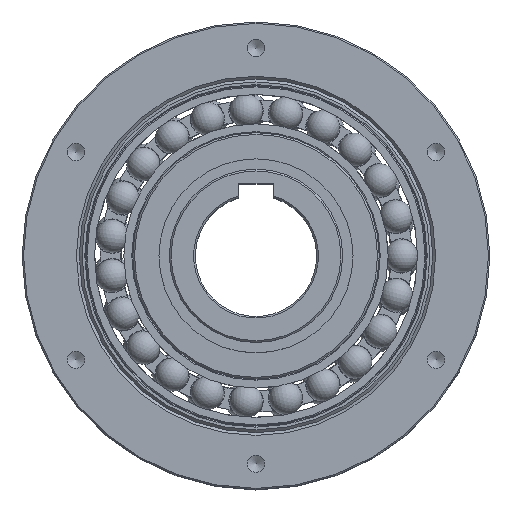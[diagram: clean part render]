
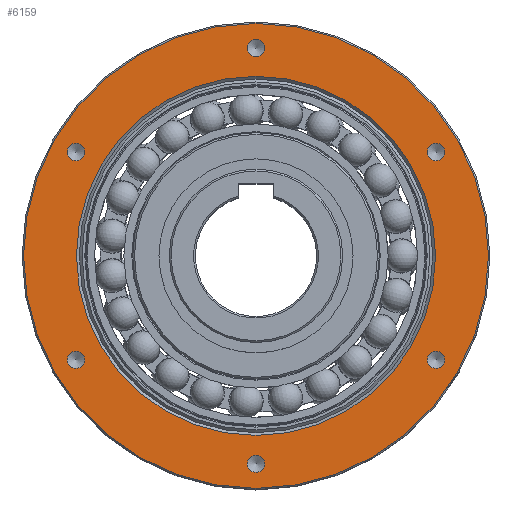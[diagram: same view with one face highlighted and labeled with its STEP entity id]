
A CAD part, top view. The second image highlights one B-rep face of the part: STEP entity #6159.
In plain terms, the highlighted planar face has unit normal (0, 0, 1).
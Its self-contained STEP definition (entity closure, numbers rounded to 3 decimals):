
#19 = FACE_BOUND ( 'NONE', #3216, .T. ) ;
#39 = CARTESIAN_POINT ( 'NONE',  ( 51.962, -30., 21.5 ) ) ;
#157 = EDGE_CURVE ( 'NONE', #6303, #6303, #559, .T. ) ;
#266 = CARTESIAN_POINT ( 'NONE',  ( 54.462, -30., 21.5 ) ) ;
#289 = AXIS2_PLACEMENT_3D ( 'NONE', #6981, #2717, #7692 ) ;
#334 = DIRECTION ( 'NONE',  ( 1., 0., 0. ) ) ;
#352 = ORIENTED_EDGE ( 'NONE', *, *, #6742, .F. ) ;
#425 = ORIENTED_EDGE ( 'NONE', *, *, #2017, .F. ) ;
#559 = CIRCLE ( 'NONE', #3207, 51.823 ) ;
#734 = DIRECTION ( 'NONE',  ( 1., 0., 0. ) ) ;
#942 = CARTESIAN_POINT ( 'NONE',  ( -51.823, 0., 21.5 ) ) ;
#961 = DIRECTION ( 'NONE',  ( 0., 0., 1. ) ) ;
#1034 = EDGE_LOOP ( 'NONE', ( #2056 ) ) ;
#1081 = CARTESIAN_POINT ( 'NONE',  ( -49.462, 30., 21.5 ) ) ;
#1203 = CARTESIAN_POINT ( 'NONE',  ( 51.962, 30., 21.5 ) ) ;
#1512 = CARTESIAN_POINT ( 'NONE',  ( -51.962, 30., 21.5 ) ) ;
#1789 = CARTESIAN_POINT ( 'NONE',  ( 2.5, -60., 21.5 ) ) ;
#1856 = FACE_BOUND ( 'NONE', #1034, .T. ) ;
#1882 = CIRCLE ( 'NONE', #289, 2.5 ) ;
#1897 = DIRECTION ( 'NONE',  ( 1., 0., 0. ) ) ;
#2017 = EDGE_CURVE ( 'NONE', #5632, #5632, #9029, .T. ) ;
#2030 = AXIS2_PLACEMENT_3D ( 'NONE', #39, #4954, #734 ) ;
#2045 = AXIS2_PLACEMENT_3D ( 'NONE', #8778, #4535, #334 ) ;
#2056 = ORIENTED_EDGE ( 'NONE', *, *, #157, .T. ) ;
#2142 = ORIENTED_EDGE ( 'NONE', *, *, #3636, .F. ) ;
#2182 = AXIS2_PLACEMENT_3D ( 'NONE', #1512, #6484, #2210 ) ;
#2210 = DIRECTION ( 'NONE',  ( 1., 0., 0. ) ) ;
#2448 = CARTESIAN_POINT ( 'NONE',  ( 54.462, 30., 21.5 ) ) ;
#2512 = FACE_BOUND ( 'NONE', #6894, .T. ) ;
#2717 = DIRECTION ( 'NONE',  ( 0., 0., 1. ) ) ;
#2867 = ORIENTED_EDGE ( 'NONE', *, *, #6850, .F. ) ;
#3179 = CARTESIAN_POINT ( 'NONE',  ( -67.1, 0., 21.5 ) ) ;
#3207 = AXIS2_PLACEMENT_3D ( 'NONE', #7897, #7798, #8370 ) ;
#3216 = EDGE_LOOP ( 'NONE', ( #6383 ) ) ;
#3365 = AXIS2_PLACEMENT_3D ( 'NONE', #7858, #3599, #8563 ) ;
#3506 = FACE_OUTER_BOUND ( 'NONE', #8657, .T. ) ;
#3516 = CIRCLE ( 'NONE', #2182, 2.5 ) ;
#3546 = EDGE_LOOP ( 'NONE', ( #425 ) ) ;
#3599 = DIRECTION ( 'NONE',  ( 0., 0., 1. ) ) ;
#3636 = EDGE_CURVE ( 'NONE', #4940, #4940, #6655, .T. ) ;
#3720 = VERTEX_POINT ( 'NONE', #3179 ) ;
#3817 = CARTESIAN_POINT ( 'NONE',  ( 2.5, 60., 21.5 ) ) ;
#3915 = VERTEX_POINT ( 'NONE', #1789 ) ;
#3936 = VERTEX_POINT ( 'NONE', #1081 ) ;
#4117 = EDGE_CURVE ( 'NONE', #4930, #4930, #1882, .T. ) ;
#4208 = PLANE ( 'NONE',  #7049 ) ;
#4273 = VERTEX_POINT ( 'NONE', #2448 ) ;
#4535 = DIRECTION ( 'NONE',  ( 0., 0., 1. ) ) ;
#4802 = EDGE_LOOP ( 'NONE', ( #2867 ) ) ;
#4912 = DIRECTION ( 'NONE',  ( -1., 0., 0. ) ) ;
#4930 = VERTEX_POINT ( 'NONE', #3817 ) ;
#4940 = VERTEX_POINT ( 'NONE', #8068 ) ;
#4954 = DIRECTION ( 'NONE',  ( 0., 0., 1. ) ) ;
#5187 = CARTESIAN_POINT ( 'NONE',  ( 0., -60., 21.5 ) ) ;
#5632 = VERTEX_POINT ( 'NONE', #266 ) ;
#5642 = FACE_BOUND ( 'NONE', #3546, .T. ) ;
#5682 = ORIENTED_EDGE ( 'NONE', *, *, #7469, .T. ) ;
#5920 = DIRECTION ( 'NONE',  ( 1., 0., 0. ) ) ;
#6020 = EDGE_CURVE ( 'NONE', #4273, #4273, #7389, .T. ) ;
#6154 = ORIENTED_EDGE ( 'NONE', *, *, #6020, .F. ) ;
#6159 = ADVANCED_FACE ( 'NONE', ( #2512, #8176, #7739, #5642, #7503, #19, #1856, #3506 ), #4208, .F. ) ;
#6166 = DIRECTION ( 'NONE',  ( 0., 0., 1. ) ) ;
#6303 = VERTEX_POINT ( 'NONE', #942 ) ;
#6383 = ORIENTED_EDGE ( 'NONE', *, *, #4117, .F. ) ;
#6484 = DIRECTION ( 'NONE',  ( 0., 0., 1. ) ) ;
#6655 = CIRCLE ( 'NONE', #2045, 2.5 ) ;
#6735 = CIRCLE ( 'NONE', #3365, 67.1 ) ;
#6742 = EDGE_CURVE ( 'NONE', #3936, #3936, #3516, .T. ) ;
#6791 = EDGE_LOOP ( 'NONE', ( #2142 ) ) ;
#6850 = EDGE_CURVE ( 'NONE', #3915, #3915, #6951, .T. ) ;
#6894 = EDGE_LOOP ( 'NONE', ( #352 ) ) ;
#6951 = CIRCLE ( 'NONE', #8374, 2.5 ) ;
#6981 = CARTESIAN_POINT ( 'NONE',  ( 0., 60., 21.5 ) ) ;
#7049 = AXIS2_PLACEMENT_3D ( 'NONE', #8443, #9146, #4912 ) ;
#7389 = CIRCLE ( 'NONE', #7705, 2.5 ) ;
#7469 = EDGE_CURVE ( 'NONE', #3720, #3720, #6735, .T. ) ;
#7503 = FACE_BOUND ( 'NONE', #8351, .T. ) ;
#7692 = DIRECTION ( 'NONE',  ( 1., 0., 0. ) ) ;
#7705 = AXIS2_PLACEMENT_3D ( 'NONE', #1203, #6166, #1897 ) ;
#7739 = FACE_BOUND ( 'NONE', #4802, .T. ) ;
#7798 = DIRECTION ( 'NONE',  ( 0., 0., -1. ) ) ;
#7858 = CARTESIAN_POINT ( 'NONE',  ( 0., 0., 21.5 ) ) ;
#7897 = CARTESIAN_POINT ( 'NONE',  ( 0., 0., 21.5 ) ) ;
#8068 = CARTESIAN_POINT ( 'NONE',  ( -49.462, -30., 21.5 ) ) ;
#8176 = FACE_BOUND ( 'NONE', #6791, .T. ) ;
#8351 = EDGE_LOOP ( 'NONE', ( #6154 ) ) ;
#8370 = DIRECTION ( 'NONE',  ( -1., 0., 0. ) ) ;
#8374 = AXIS2_PLACEMENT_3D ( 'NONE', #5187, #961, #5920 ) ;
#8443 = CARTESIAN_POINT ( 'NONE',  ( 0., 67.5, 21.5 ) ) ;
#8563 = DIRECTION ( 'NONE',  ( -1., 0., 0. ) ) ;
#8657 = EDGE_LOOP ( 'NONE', ( #5682 ) ) ;
#8778 = CARTESIAN_POINT ( 'NONE',  ( -51.962, -30., 21.5 ) ) ;
#9029 = CIRCLE ( 'NONE', #2030, 2.5 ) ;
#9146 = DIRECTION ( 'NONE',  ( 0., 0., -1. ) ) ;
